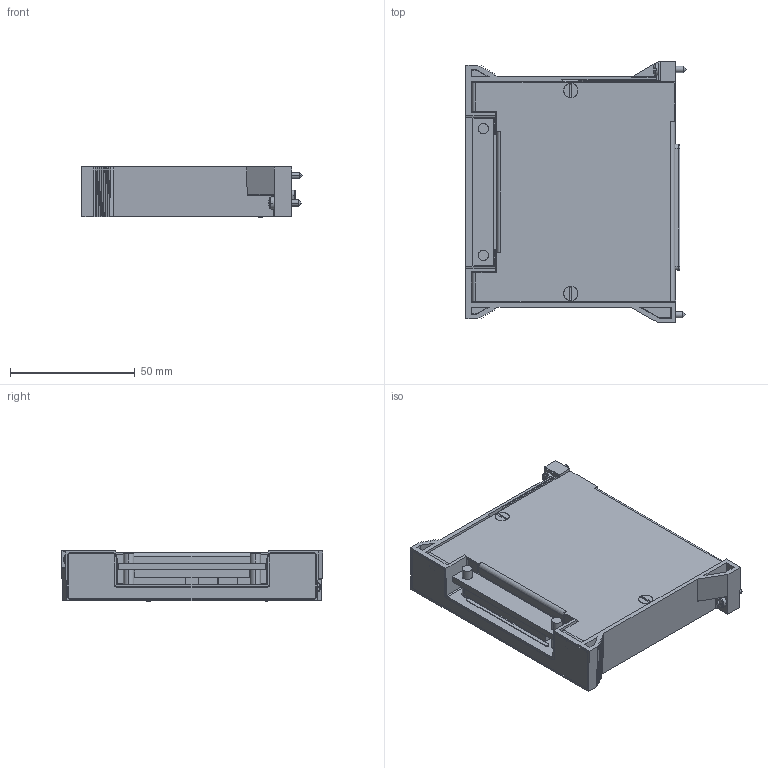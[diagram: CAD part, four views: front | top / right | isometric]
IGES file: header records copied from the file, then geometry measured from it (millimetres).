
Start section:  PTC IGES file: cu_tb-2631.igs
Global section: file name: cu_tb-2631.igs; native system: Pro/ENGINEER by Parametric Technology Corporation; preprocessor: 2010230; author: jjorden; organization: Unknown; date: 20110810.150504; units: inch
Bounding box: 88.3 x 104.78 x 20.08 mm (x, y, z)
Surface area: 69614.8 mm2 (no closed solid volume)
Topology: 0 solids, 0 shells, 2259 faces, 11906 edges, 11842 vertices
Faces by surface type: bspline 1734, revolution 525
